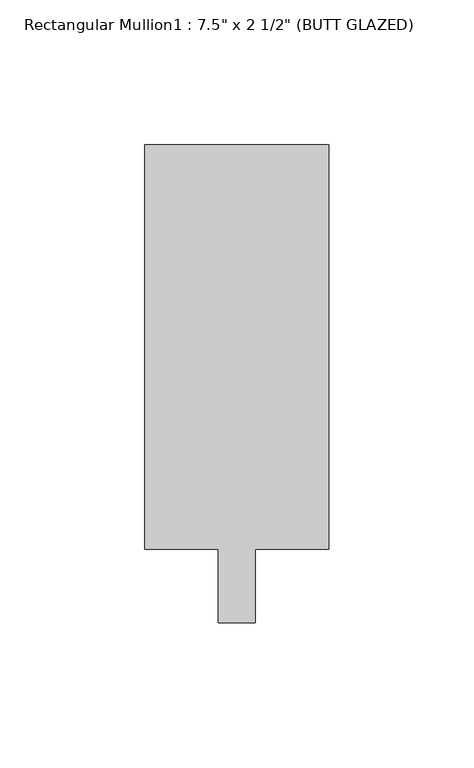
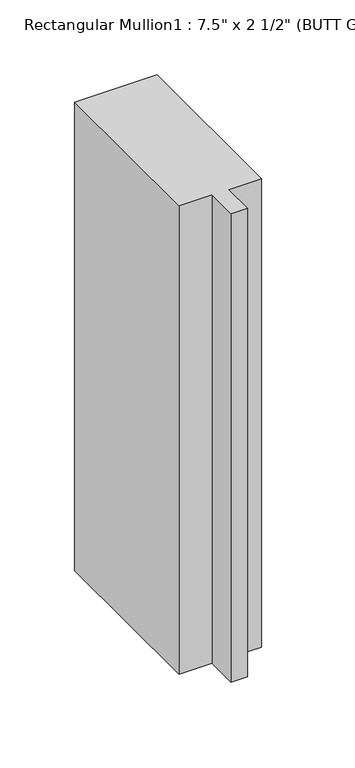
"""IFC4 building model written with IfcOpenShell, lengths in millimetres: member geometry."""

from ifc_helpers import new_model, si_unit, frame, origin, place, context, project, spatial, polyline, outline, extrude, source, transform, mapped, element, save


def member_a358c231(model_context):
    return source(origin(), model_context, "Body", "SweptSolid", [
        extrude(outline(polyline([(31.75, 165.1), (31.75, 25.4), (6.35, 25.4), (6.35, 0.0), (-6.35, 0.0), (-6.35, 25.4), (-31.75, 25.4), (-31.75, 165.1), (31.75, 165.1)])), frame((0.0, 0.0, -382.2704451), z_axis=(0.0, 0.0, 1.0), x_axis=(1.0, 0.0, 0.0)), (0.0, 0.0, 1.0), 382.2704451),
    ])


if __name__ == "__main__":
    model = new_model("IFC4")
    model_context = context("Model", 3, world=origin())
    ifc_project = project(units=[si_unit("LENGTHUNIT", "METRE", prefix="MILLI")], contexts=[model_context])
    site = spatial("IfcSite", under=ifc_project)
    building = spatial("IfcBuilding", under=site)
    placement = place(None, origin())
    member_shape = member_a358c231(model_context)
    element("IfcMember", 1, ObjectType="Rectangular Mullion1 : 7.5\" x 2 1/2\" (BUTT GLAZED)", at=placement, inside=building, context=model_context, shape_type="MappedRepresentation", body=[
        mapped(member_shape, transform((0.0, 0.0, 0.0), x_axis=(1.0, 0.0, 0.0), y_axis=(0.0, 1.0, 0.0), z_axis=(0.0, 0.0, 1.0))),
    ])
    save(model, "model.ifc")
